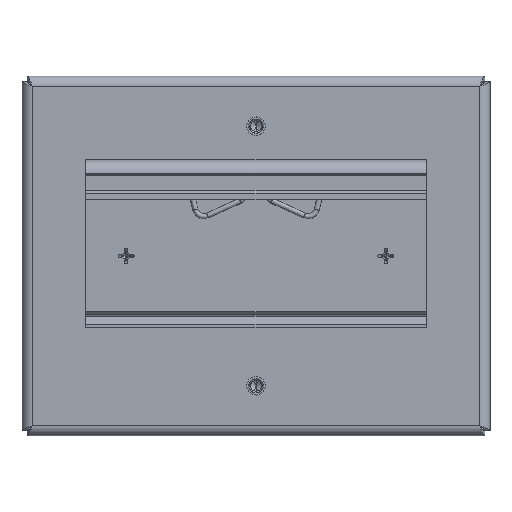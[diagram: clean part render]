
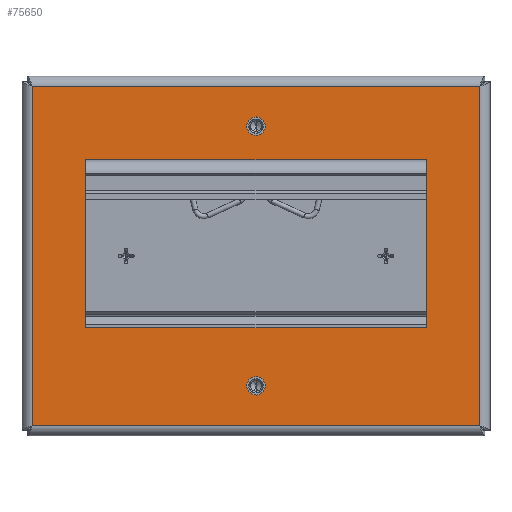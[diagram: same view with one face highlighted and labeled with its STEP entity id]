
A CAD part, front view. The second image highlights one B-rep face of the part: STEP entity #75650.
In plain terms, the highlighted planar face has unit normal (0, -1, 0).
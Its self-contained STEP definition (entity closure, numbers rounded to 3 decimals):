
#16121=DIRECTION('',(1.,0.,0.));
#16122=VECTOR('',#16121,131.369);
#16123=CARTESIAN_POINT('',(-65.684,-20.286,49.809));
#16124=LINE('',#16123,#16122);
#16154=CARTESIAN_POINT('',(0.,-20.286,-38.1));
#16155=DIRECTION('',(0.,1.,0.));
#16156=DIRECTION('',(0.,0.,1.));
#16157=AXIS2_PLACEMENT_3D('',#16154,#16155,#16156);
#16159=CARTESIAN_POINT('',(0.,-20.286,-38.1));
#16160=DIRECTION('',(0.,1.,0.));
#16161=DIRECTION('',(0.,0.,-1.));
#16162=AXIS2_PLACEMENT_3D('',#16159,#16160,#16161);
#16164=CARTESIAN_POINT('',(0.,-20.286,38.1));
#16165=DIRECTION('',(0.,1.,0.));
#16166=DIRECTION('',(0.,0.,1.));
#16167=AXIS2_PLACEMENT_3D('',#16164,#16165,#16166);
#16169=CARTESIAN_POINT('',(0.,-20.286,38.1));
#16170=DIRECTION('',(0.,1.,0.));
#16171=DIRECTION('',(0.,0.,-1.));
#16172=AXIS2_PLACEMENT_3D('',#16169,#16170,#16171);
#16174=DIRECTION('',(0.,0.,-1.));
#16175=VECTOR('',#16174,49.276);
#16176=CARTESIAN_POINT('',(50.,-20.286,28.245));
#16177=LINE('',#16176,#16175);
#16178=DIRECTION('',(-1.,0.,0.));
#16179=VECTOR('',#16178,100.);
#16180=CARTESIAN_POINT('',(50.,-20.286,28.245));
#16181=LINE('',#16180,#16179);
#16182=DIRECTION('',(0.,0.,-1.));
#16183=VECTOR('',#16182,49.276);
#16184=CARTESIAN_POINT('',(-50.,-20.286,28.245));
#16185=LINE('',#16184,#16183);
#16186=DIRECTION('',(-1.,0.,0.));
#16187=VECTOR('',#16186,100.);
#16188=CARTESIAN_POINT('',(50.,-20.286,-21.031));
#16189=LINE('',#16188,#16187);
#16219=DIRECTION('',(0.,0.,-1.));
#16220=VECTOR('',#16219,99.619);
#16221=CARTESIAN_POINT('',(65.684,-20.286,49.809));
#16222=LINE('',#16221,#16220);
#16325=DIRECTION('',(-1.,0.,0.));
#16326=VECTOR('',#16325,131.369);
#16327=CARTESIAN_POINT('',(65.684,-20.286,-49.809));
#16328=LINE('',#16327,#16326);
#16356=CARTESIAN_POINT('',(65.684,-20.286,-49.809));
#16431=DIRECTION('',(0.,0.,1.));
#16432=VECTOR('',#16431,99.619);
#16433=CARTESIAN_POINT('',(-65.684,-20.286,-49.809));
#16434=LINE('',#16433,#16432);
#51118=VERTEX_POINT('',#16356);
#51119=CARTESIAN_POINT('',(-65.684,-20.286,-49.809));
#51120=VERTEX_POINT('',#51119);
#51139=CARTESIAN_POINT('',(65.684,-20.286,49.809));
#51140=VERTEX_POINT('',#51139);
#51141=CARTESIAN_POINT('',(-65.684,-20.286,49.809));
#51142=VERTEX_POINT('',#51141);
#51195=CARTESIAN_POINT('',(0.,-20.286,-35.395));
#51196=CARTESIAN_POINT('',(0.,-20.286,-40.805));
#51197=VERTEX_POINT('',#51195);
#51198=VERTEX_POINT('',#51196);
#51199=CARTESIAN_POINT('',(0.,-20.286,40.805));
#51200=CARTESIAN_POINT('',(0.,-20.286,35.395));
#51201=VERTEX_POINT('',#51199);
#51202=VERTEX_POINT('',#51200);
#51887=CARTESIAN_POINT('',(50.,-20.286,28.245));
#51888=CARTESIAN_POINT('',(50.,-20.286,-21.031));
#51889=VERTEX_POINT('',#51887);
#51890=VERTEX_POINT('',#51888);
#51891=CARTESIAN_POINT('',(-50.,-20.286,28.245));
#51892=CARTESIAN_POINT('',(-50.,-20.286,-21.031));
#51893=VERTEX_POINT('',#51891);
#51894=VERTEX_POINT('',#51892);
#75614=CARTESIAN_POINT('',(0.,-20.286,0.));
#75615=DIRECTION('',(0.,1.,0.));
#75616=DIRECTION('',(1.,0.,0.));
#75617=AXIS2_PLACEMENT_3D('',#75614,#75615,#75616);
#75618=PLANE('',#75617);
#75619=ORIENTED_EDGE('',*,*,#75601,.T.);
#75621=ORIENTED_EDGE('',*,*,#75620,.T.);
#75623=ORIENTED_EDGE('',*,*,#75622,.T.);
#75625=ORIENTED_EDGE('',*,*,#75624,.T.);
#75626=EDGE_LOOP('',(#75619,#75621,#75623,#75625));
#75627=FACE_OUTER_BOUND('',#75626,.F.);
#75629=ORIENTED_EDGE('',*,*,#75628,.F.);
#75631=ORIENTED_EDGE('',*,*,#75630,.F.);
#75632=EDGE_LOOP('',(#75629,#75631));
#75633=FACE_BOUND('',#75632,.F.);
#75635=ORIENTED_EDGE('',*,*,#75634,.F.);
#75637=ORIENTED_EDGE('',*,*,#75636,.F.);
#75638=EDGE_LOOP('',(#75635,#75637));
#75639=FACE_BOUND('',#75638,.F.);
#75641=ORIENTED_EDGE('',*,*,#75640,.F.);
#75643=ORIENTED_EDGE('',*,*,#75642,.T.);
#75645=ORIENTED_EDGE('',*,*,#75644,.T.);
#75647=ORIENTED_EDGE('',*,*,#75646,.F.);
#75648=EDGE_LOOP('',(#75641,#75643,#75645,#75647));
#75649=FACE_BOUND('',#75648,.F.);
#16158=CIRCLE('',#16157,2.705);
#16163=CIRCLE('',#16162,2.705);
#16168=CIRCLE('',#16167,2.705);
#16173=CIRCLE('',#16172,2.705);
#75601=EDGE_CURVE('',#51142,#51140,#16124,.T.);
#75620=EDGE_CURVE('',#51140,#51118,#16222,.T.);
#75622=EDGE_CURVE('',#51118,#51120,#16328,.T.);
#75624=EDGE_CURVE('',#51120,#51142,#16434,.T.);
#75628=EDGE_CURVE('',#51197,#51198,#16158,.T.);
#75630=EDGE_CURVE('',#51198,#51197,#16163,.T.);
#75634=EDGE_CURVE('',#51201,#51202,#16168,.T.);
#75636=EDGE_CURVE('',#51202,#51201,#16173,.T.);
#75640=EDGE_CURVE('',#51889,#51890,#16177,.T.);
#75642=EDGE_CURVE('',#51889,#51893,#16181,.T.);
#75644=EDGE_CURVE('',#51893,#51894,#16185,.T.);
#75646=EDGE_CURVE('',#51890,#51894,#16189,.T.);
#75650=ADVANCED_FACE('',(#75627,#75633,#75639,#75649),#75618,.F.);
